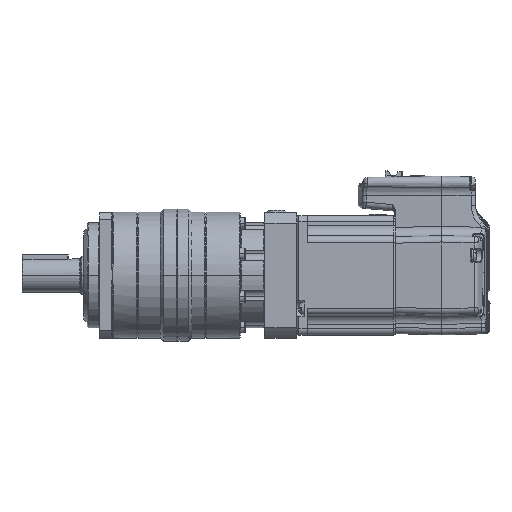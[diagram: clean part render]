
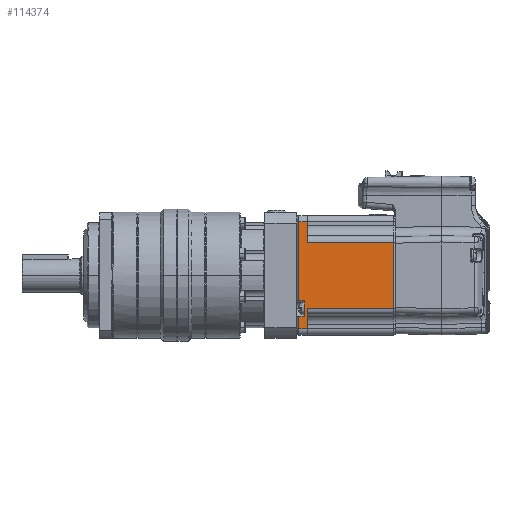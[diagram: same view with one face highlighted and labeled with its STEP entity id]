
A CAD part, left-side view. The second image highlights one B-rep face of the part: STEP entity #114374.
In plain terms, the highlighted planar face has unit normal (-1, 0, 0).
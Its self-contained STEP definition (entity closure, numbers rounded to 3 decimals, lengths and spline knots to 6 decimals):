
#31606 = CARTESIAN_POINT ( 'NONE',  ( -0.0285, 0.0071, -0.0285 ) ) ;
#31613 = PLANE ( 'NONE',  #141398 ) ;
#31619 = DIRECTION ( 'NONE',  ( -1., 0., 0. ) ) ;
#31621 = DIRECTION ( 'NONE',  ( 0., 0., 1. ) ) ;
#43458 = DIRECTION ( 'NONE',  ( 0., 1., 0. ) ) ;
#43486 = CARTESIAN_POINT ( 'NONE',  ( -0.0285, 0.0491, -0.01577 ) ) ;
#43516 = CARTESIAN_POINT ( 'NONE',  ( -0.0285, 0.0081, -0.0285 ) ) ;
#43536 = DIRECTION ( 'NONE',  ( 0., 0., -1. ) ) ;
#43541 = FACE_OUTER_BOUND ( 'NONE', #84672, .T. ) ;
#43549 = CARTESIAN_POINT ( 'NONE',  ( -0.0285, 0.0071, 0.01577 ) ) ;
#43557 = DIRECTION ( 'NONE',  ( 0., 1., 0. ) ) ;
#44359 = CARTESIAN_POINT ( 'NONE',  ( -0.0285, 0.0491, -0.0285 ) ) ;
#44367 = DIRECTION ( 'NONE',  ( 0., 0., 1. ) ) ;
#44372 = CARTESIAN_POINT ( 'NONE',  ( -0.0285, 0.0071, -0.0255 ) ) ;
#44378 = DIRECTION ( 'NONE',  ( 0., -1., 0. ) ) ;
#44385 = DIRECTION ( 'NONE',  ( 0., 0., -1. ) ) ;
#44410 = CARTESIAN_POINT ( 'NONE',  ( -0.0285, 0.0531, -0.0285 ) ) ;
#44417 = DIRECTION ( 'NONE',  ( 0., 0., -1. ) ) ;
#44422 = CARTESIAN_POINT ( 'NONE',  ( -0.0285, 0.0071, -0.0196 ) ) ;
#44430 = DIRECTION ( 'NONE',  ( 0., 1., 0. ) ) ;
#44438 = CARTESIAN_POINT ( 'NONE',  ( -0.0285, 0.0071, -0.0122 ) ) ;
#44442 = CARTESIAN_POINT ( 'NONE',  ( -0.0285, 0.0531, -0.0285 ) ) ;
#44447 = CARTESIAN_POINT ( 'NONE',  ( -0.0285, 0.0506, -0.0285 ) ) ;
#44479 = DIRECTION ( 'NONE',  ( 0., -1., 0. ) ) ;
#44504 = DIRECTION ( 'NONE',  ( 0., 0., -1. ) ) ;
#44548 = CARTESIAN_POINT ( 'NONE',  ( -0.0285, 0.0071, 0.0255 ) ) ;
#44554 = DIRECTION ( 'NONE',  ( 0., 1., 0. ) ) ;
#44593 = DIRECTION ( 'NONE',  ( 0., 0., 1. ) ) ;
#44598 = CARTESIAN_POINT ( 'NONE',  ( -0.0285, 0.0491, -0.0285 ) ) ;
#84672 = EDGE_LOOP ( 'NONE', ( #164305, #164308, #164311, #164315, #164318, #164322, #164325, #164328, #164331, #164335, #164338, #164341 ) ) ;
#89837 = VERTEX_POINT ( 'NONE', #134416 ) ;
#89843 = VERTEX_POINT ( 'NONE', #134436 ) ;
#89881 = VERTEX_POINT ( 'NONE', #134493 ) ;
#89892 = VERTEX_POINT ( 'NONE', #134512 ) ;
#89894 = VERTEX_POINT ( 'NONE', #134515 ) ;
#89905 = VERTEX_POINT ( 'NONE', #134535 ) ;
#89906 = VERTEX_POINT ( 'NONE', #134546 ) ;
#89910 = VERTEX_POINT ( 'NONE', #134544 ) ;
#89915 = VERTEX_POINT ( 'NONE', #134552 ) ;
#89916 = VERTEX_POINT ( 'NONE', #134564 ) ;
#89987 = VERTEX_POINT ( 'NONE', #134674 ) ;
#90029 = VERTEX_POINT ( 'NONE', #134763 ) ;
#97070 = LINE ( 'NONE', #43516, #97078 ) ;
#97074 = LINE ( 'NONE', #43486, #97076 ) ;
#97076 = VECTOR ( 'NONE', #43458, 1. ) ;
#97077 = LINE ( 'NONE', #43549, #97080 ) ;
#97078 = VECTOR ( 'NONE', #43536, 1. ) ;
#97080 = VECTOR ( 'NONE', #43557, 1. ) ;
#97162 = LINE ( 'NONE', #44447, #97181 ) ;
#97166 = LINE ( 'NONE', #44359, #97169 ) ;
#97168 = LINE ( 'NONE', #44372, #97171 ) ;
#97169 = VECTOR ( 'NONE', #44367, 1. ) ;
#97171 = VECTOR ( 'NONE', #44378, 1. ) ;
#97173 = LINE ( 'NONE', #44410, #97176 ) ;
#97175 = LINE ( 'NONE', #44422, #97178 ) ;
#97176 = VECTOR ( 'NONE', #44417, 1. ) ;
#97178 = VECTOR ( 'NONE', #44430, 1. ) ;
#97179 = LINE ( 'NONE', #44438, #97185 ) ;
#97181 = VECTOR ( 'NONE', #44385, 1. ) ;
#97182 = LINE ( 'NONE', #44442, #97189 ) ;
#97185 = VECTOR ( 'NONE', #44479, 1. ) ;
#97189 = VECTOR ( 'NONE', #44504, 1. ) ;
#97191 = LINE ( 'NONE', #44548, #97194 ) ;
#97194 = VECTOR ( 'NONE', #44554, 1. ) ;
#97201 = LINE ( 'NONE', #44598, #97203 ) ;
#97203 = VECTOR ( 'NONE', #44593, 1. ) ;
#114374 = ADVANCED_FACE ( 'NONE', ( #43541 ), #31613, .T. ) ;
#134416 = CARTESIAN_POINT ( 'NONE',  ( -0.0285, 0.0081, -0.01577 ) ) ;
#134436 = CARTESIAN_POINT ( 'NONE',  ( -0.0285, 0.0081, 0.01577 ) ) ;
#134493 = CARTESIAN_POINT ( 'NONE',  ( -0.0285, 0.0491, -0.0255 ) ) ;
#134512 = CARTESIAN_POINT ( 'NONE',  ( -0.0285, 0.0491, -0.01577 ) ) ;
#134515 = CARTESIAN_POINT ( 'NONE',  ( -0.0285, 0.0506, -0.0122 ) ) ;
#134535 = CARTESIAN_POINT ( 'NONE',  ( -0.0285, 0.0531, -0.0196 ) ) ;
#134544 = CARTESIAN_POINT ( 'NONE',  ( -0.0285, 0.0491, 0.0255 ) ) ;
#134546 = CARTESIAN_POINT ( 'NONE',  ( -0.0285, 0.0531, -0.0122 ) ) ;
#134552 = CARTESIAN_POINT ( 'NONE',  ( -0.0285, 0.0491, 0.01577 ) ) ;
#134564 = CARTESIAN_POINT ( 'NONE',  ( -0.0285, 0.0506, -0.0196 ) ) ;
#134674 = CARTESIAN_POINT ( 'NONE',  ( -0.0285, 0.0531, -0.0255 ) ) ;
#134763 = CARTESIAN_POINT ( 'NONE',  ( -0.0285, 0.0531, 0.0255 ) ) ;
#141398 = AXIS2_PLACEMENT_3D ( 'NONE', #31606, #31619, #31621 ) ;
#158470 = EDGE_CURVE ( 'NONE', #89837, #89892, #97074, .T. ) ;
#158475 = EDGE_CURVE ( 'NONE', #89843, #89837, #97070, .T. ) ;
#158480 = EDGE_CURVE ( 'NONE', #89843, #89915, #97077, .T. ) ;
#158797 = EDGE_CURVE ( 'NONE', #89881, #89892, #97166, .T. ) ;
#158802 = EDGE_CURVE ( 'NONE', #89987, #89881, #97168, .T. ) ;
#158817 = EDGE_CURVE ( 'NONE', #89905, #89987, #97173, .T. ) ;
#158821 = EDGE_CURVE ( 'NONE', #89916, #89905, #97175, .T. ) ;
#158835 = EDGE_CURVE ( 'NONE', #89894, #89916, #97162, .T. ) ;
#158845 = EDGE_CURVE ( 'NONE', #89906, #89894, #97179, .T. ) ;
#158857 = EDGE_CURVE ( 'NONE', #90029, #89906, #97182, .T. ) ;
#158874 = EDGE_CURVE ( 'NONE', #89910, #90029, #97191, .T. ) ;
#158907 = EDGE_CURVE ( 'NONE', #89915, #89910, #97201, .T. ) ;
#164305 = ORIENTED_EDGE ( 'NONE', *, *, #158475, .F. ) ;
#164308 = ORIENTED_EDGE ( 'NONE', *, *, #158480, .T. ) ;
#164311 = ORIENTED_EDGE ( 'NONE', *, *, #158907, .T. ) ;
#164315 = ORIENTED_EDGE ( 'NONE', *, *, #158874, .T. ) ;
#164318 = ORIENTED_EDGE ( 'NONE', *, *, #158857, .T. ) ;
#164322 = ORIENTED_EDGE ( 'NONE', *, *, #158845, .T. ) ;
#164325 = ORIENTED_EDGE ( 'NONE', *, *, #158835, .T. ) ;
#164328 = ORIENTED_EDGE ( 'NONE', *, *, #158821, .T. ) ;
#164331 = ORIENTED_EDGE ( 'NONE', *, *, #158817, .T. ) ;
#164335 = ORIENTED_EDGE ( 'NONE', *, *, #158802, .T. ) ;
#164338 = ORIENTED_EDGE ( 'NONE', *, *, #158797, .T. ) ;
#164341 = ORIENTED_EDGE ( 'NONE', *, *, #158470, .F. ) ;
